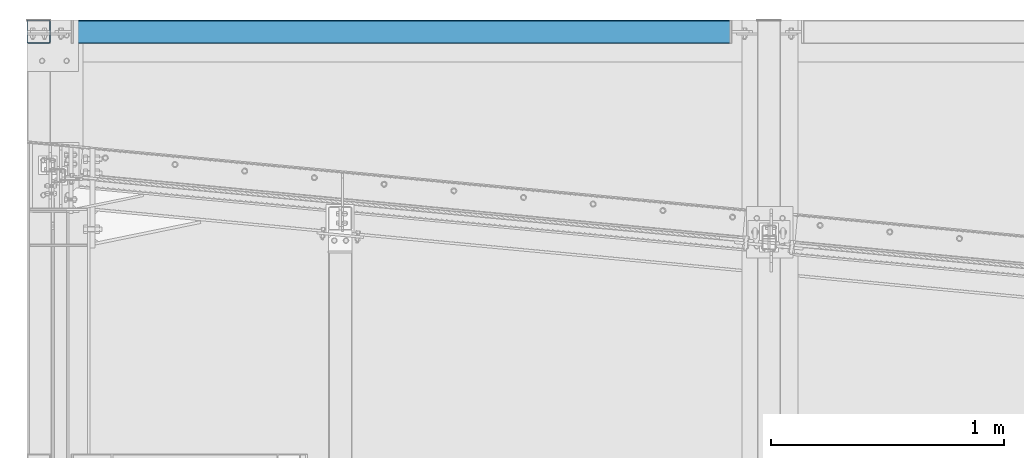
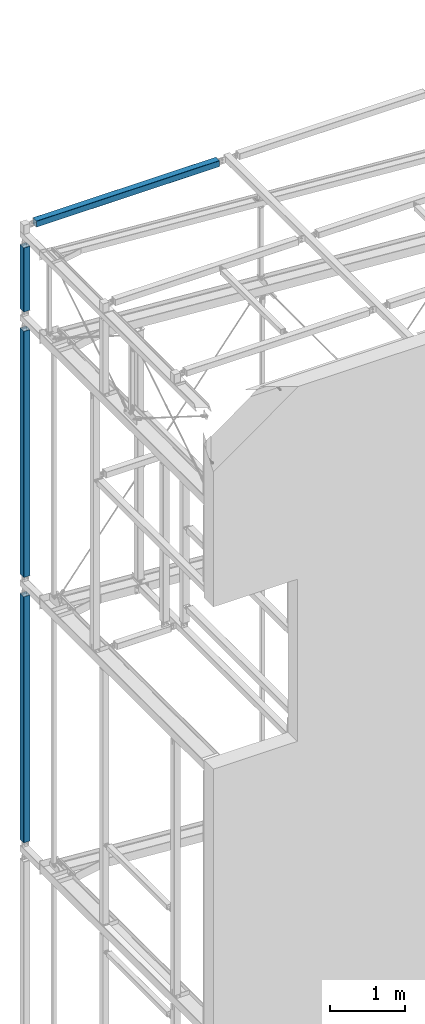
# One storey, part 31 of 271: 4 beams, 4 elements without a shape of their own.
"""IFC2X3 building model written with IfcOpenShell, lengths in millimetres."""

from ifc_helpers import new_model, si_unit, frame, origin_with_axes, origin_2d_with_axis, place, context, subcontext, project, spatial, hollow_rectangle, extrude, clip, halfspace, material, type_object, element, aggregate, save


model = new_model("IFC2X3")

# Units and contexts
model_context = context("Model", 3, precision=1e-05, world=origin_with_axes())
body_context = subcontext(model_context, "Body", "Model", "MODEL_VIEW")
ifc_project = project(units=[si_unit("LENGTHUNIT", "METRE", prefix="MILLI"), si_unit("AREAUNIT", "SQUARE_METRE"), si_unit("VOLUMEUNIT", "CUBIC_METRE"), si_unit("MASSUNIT", "GRAM", prefix="KILO"), si_unit("TIMEUNIT", "SECOND"), si_unit("PLANEANGLEUNIT", "RADIAN"), si_unit("SOLIDANGLEUNIT", "STERADIAN"), si_unit("THERMODYNAMICTEMPERATUREUNIT", "DEGREE_CELSIUS"), si_unit("LUMINOUSINTENSITYUNIT", "LUMEN")], contexts=[model_context])

# Site, building, storey
site_placement = place(None, origin_with_axes())
site = spatial("IfcSite", under=ifc_project, at=site_placement, Name="Undefined", CompositionType="ELEMENT")
building_placement = place(site_placement, origin_with_axes())
building = spatial("IfcBuilding", under=site, at=building_placement, Name="Undefined", CompositionType="ELEMENT")
storey_placement = place(building_placement, origin_with_axes())
storey = spatial("IfcBuildingStorey", under=building, at=storey_placement, Name="Undefined", CompositionType="ELEMENT", Elevation=0.0)

# Assembly, beam
assembly_1_placement = place(storey_placement, origin_with_axes())
assembly_1 = element("IfcElementAssembly", 1, at=assembly_1_placement, inside=storey, AssemblyPlace="NOTDEFINED", PredefinedType="RIGID_FRAME")
ifc_material = material(Name="STEEL/S355JR")
beam_type = type_object("IfcBeamType", Name="SHS100*3", PredefinedType="NOTDEFINED")
beam_1_placement = place(assembly_1_placement, frame((-11.6243129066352, 4909.32498425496, 20154.3499999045), z_axis=(0.0, 1.0, 0.0), x_axis=(1.0, 0.0, 0.0)))
beam_1 = element("IfcBeam", 2, at=beam_1_placement, type_object=beam_type, material=ifc_material, Name="RYGIEL ATTYKOWY", ObjectType="SHS100*3", context=body_context, shape_type="Clipping", body=[
    clip(clip(extrude(hollow_rectangle(XDim=100.0, YDim=100.0, WallThickness=3.0, InnerFilletRadius=3.0, OuterFilletRadius=6.0, at=origin_2d_with_axis()), frame((3180.0, 0.0, 0.0), z_axis=(-1.0, 0.0, 1.38777878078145e-17), x_axis=(0.0, -1.0, 0.0)), (0.0, 0.0, 1.0), 3180.0), halfspace(frame((3012.0, 0.0, -15.0), z_axis=(-1.0, 0.0, 1.38777878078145e-17), x_axis=(0.0, 1.0, 0.0)), True)), halfspace(frame((198.000000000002, 0.0, -15.0), z_axis=(1.0, 0.0, 0.0), x_axis=(0.0, -1.0, 0.0)), True)),
])
aggregate(assembly_1, [beam_1])

assembly_2_placement = place(storey_placement, origin_with_axes())
assembly_2 = element("IfcElementAssembly", 3, at=assembly_2_placement, inside=storey, AssemblyPlace="NOTDEFINED", PredefinedType="RIGID_FRAME")
beam_2_placement = place(assembly_2_placement, frame((38.3756870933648, 4909.32498425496, 14324.3499999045), z_axis=(0.0, 1.0, 0.0), x_axis=(0.0, 0.0, -1.0)))
beam_2 = element("IfcBeam", 4, at=beam_2_placement, type_object=beam_type, material=ifc_material, Name="RYGIEL ATTYKOWY", ObjectType="SHS100*3", context=body_context, shape_type="Clipping", body=[
    clip(clip(extrude(hollow_rectangle(XDim=100.0, YDim=100.0, WallThickness=3.0, InnerFilletRadius=3.0, OuterFilletRadius=6.0, at=origin_2d_with_axis()), frame((4320.0, 0.0, 9.09494701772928e-13), z_axis=(-1.0, 0.0, 1.38777878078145e-17), x_axis=(0.0, -1.0, 0.0)), (0.0, 0.0, 1.0), 4320.0), halfspace(frame((4172.0, 0.0, -15.0), z_axis=(-1.0, 0.0, 1.38777878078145e-17), x_axis=(0.0, 1.0, 0.0)), True)), halfspace(frame((168.0, 0.0, -15.0), z_axis=(1.0, 0.0, 0.0), x_axis=(0.0, -1.0, 0.0)), True)),
])
aggregate(assembly_2, [beam_2])

assembly_3_placement = place(storey_placement, origin_with_axes())
assembly_3 = element("IfcElementAssembly", 5, at=assembly_3_placement, inside=storey, AssemblyPlace="NOTDEFINED", PredefinedType="RIGID_FRAME")
beam_3_placement = place(assembly_3_placement, frame((38.3756870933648, 4909.32498425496, 18644.3499999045), z_axis=(0.0, 1.0, 0.0), x_axis=(0.0, 0.0, -1.0)))
beam_3 = element("IfcBeam", 6, at=beam_3_placement, type_object=beam_type, material=ifc_material, Name="RYGIEL ATTYKOWY", ObjectType="SHS100*3", context=body_context, shape_type="Clipping", body=[
    clip(clip(extrude(hollow_rectangle(XDim=100.0, YDim=100.0, WallThickness=3.0, InnerFilletRadius=3.0, OuterFilletRadius=6.0, at=origin_2d_with_axis()), frame((4320.0, 0.0, 9.09494701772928e-13), z_axis=(-1.0, 0.0, 1.38777878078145e-17), x_axis=(0.0, -1.0, 0.0)), (0.0, 0.0, 1.0), 4320.0), halfspace(frame((4172.0, 0.0, -15.0), z_axis=(-1.0, 0.0, 1.38777878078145e-17), x_axis=(0.0, 1.0, 0.0)), True)), halfspace(frame((168.0, 0.0, -15.0), z_axis=(1.0, 0.0, 0.0), x_axis=(0.0, -1.0, 0.0)), True)),
])
aggregate(assembly_3, [beam_3])

assembly_4_placement = place(storey_placement, origin_with_axes())
assembly_4 = element("IfcElementAssembly", 7, at=assembly_4_placement, inside=storey, AssemblyPlace="NOTDEFINED", PredefinedType="RIGID_FRAME")
beam_4_placement = place(assembly_4_placement, frame((38.3756870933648, 4909.32498425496, 20004.3499999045), z_axis=(0.0, 1.0, 0.0), x_axis=(0.0, 0.0, -1.0)))
beam_4 = element("IfcBeam", 8, at=beam_4_placement, type_object=beam_type, material=ifc_material, Name="RYGIEL ATTYKOWY", ObjectType="SHS100*3", context=body_context, shape_type="Clipping", body=[
    clip(clip(extrude(hollow_rectangle(XDim=100.0, YDim=100.0, WallThickness=3.0, InnerFilletRadius=3.0, OuterFilletRadius=6.0, at=origin_2d_with_axis()), frame((1360.0, 0.0, 0.0), z_axis=(-1.0, 0.0, 1.38777878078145e-17), x_axis=(0.0, -1.0, 0.0)), (0.0, 0.0, 1.0), 1360.0), halfspace(frame((1212.0, 0.0, -15.0), z_axis=(-1.0, 0.0, 1.38777878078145e-17), x_axis=(0.0, 1.0, 0.0)), True)), halfspace(frame((168.0, 0.0, -15.0), z_axis=(1.0, 0.0, 0.0), x_axis=(0.0, -1.0, 0.0)), True)),
])
aggregate(assembly_4, [beam_4])

save(model, "model.ifc")
